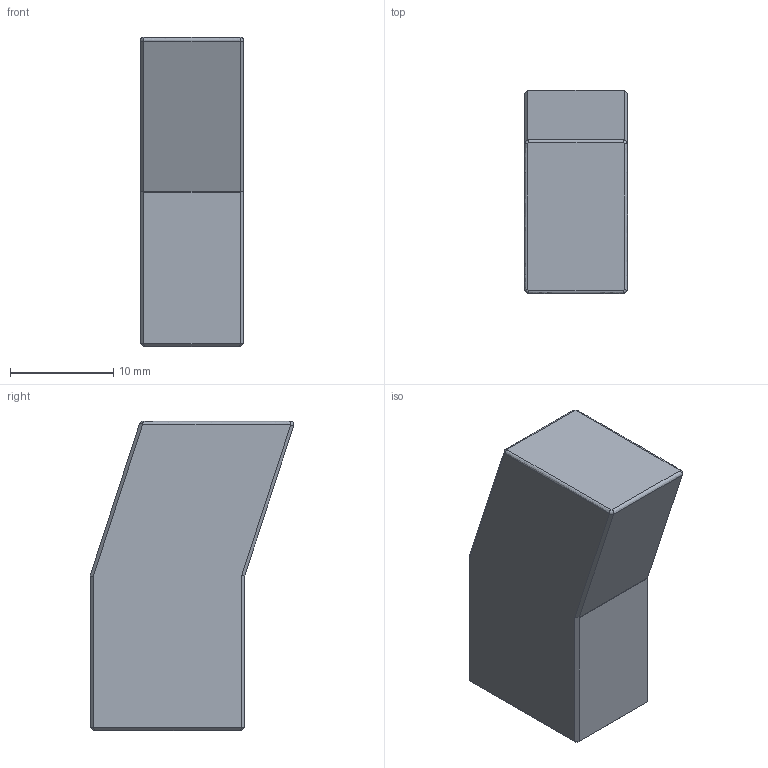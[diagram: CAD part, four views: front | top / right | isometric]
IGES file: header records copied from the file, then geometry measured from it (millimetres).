
Global section: file name: E:\UnigraphicsGraphicData\MISUMI_MOLD-PARTS\NX\3d_ance15_b10_l30_k18_00923_r00.igs; native system: NX V5.0; preprocessor: UGS NX IGES V5.0; author: MISUMI; date: 20101115.182446; units: millimetre
Bounding box: 10 x 19.76 x 30 mm (x, y, z)
Surface area: 2205.3 mm2 (no closed solid volume)
Topology: 0 solids, 0 shells, 37 faces, 207 edges, 206 vertices
Faces by surface type: bspline 37
